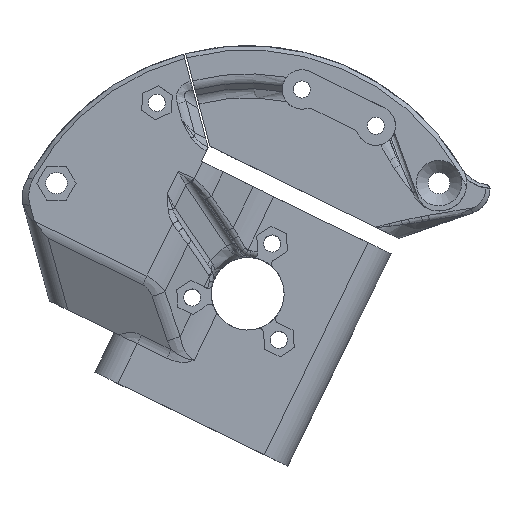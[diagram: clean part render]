
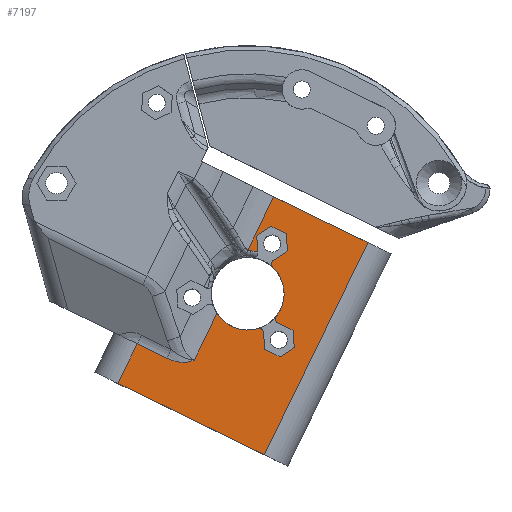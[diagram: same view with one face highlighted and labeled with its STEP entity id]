
A CAD part, top view. The second image highlights one B-rep face of the part: STEP entity #7197.
In plain terms, the highlighted planar face has unit normal (0, 0, 1).
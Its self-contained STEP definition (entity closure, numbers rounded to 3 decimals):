
#98=B_SPLINE_CURVE_WITH_KNOTS('',3,(#10749,#10750,#10751,#10752,#10753),
 .UNSPECIFIED.,.F.,.F.,(4,1,4),(0.,0.003,
0.006),.UNSPECIFIED.);
#682=CIRCLE('',#7674,10.);
#684=CIRCLE('',#7678,1.);
#687=CIRCLE('',#7682,1.);
#688=CIRCLE('',#7684,1.);
#708=CIRCLE('',#7744,1.5);
#709=CIRCLE('',#7745,8.5);
#710=CIRCLE('',#7746,8.5);
#1792=ORIENTED_EDGE('',*,*,#3602,.T.);
#1793=ORIENTED_EDGE('',*,*,#3506,.T.);
#1794=ORIENTED_EDGE('',*,*,#3343,.T.);
#1795=ORIENTED_EDGE('',*,*,#3333,.T.);
#1796=ORIENTED_EDGE('',*,*,#3336,.T.);
#1797=ORIENTED_EDGE('',*,*,#3339,.T.);
#1798=ORIENTED_EDGE('',*,*,#3342,.T.);
#1799=ORIENTED_EDGE('',*,*,#3509,.T.);
#1800=ORIENTED_EDGE('',*,*,#3603,.T.);
#1801=ORIENTED_EDGE('',*,*,#3513,.T.);
#1802=ORIENTED_EDGE('',*,*,#3314,.T.);
#1803=ORIENTED_EDGE('',*,*,#3320,.T.);
#1804=ORIENTED_EDGE('',*,*,#3323,.T.);
#1805=ORIENTED_EDGE('',*,*,#3326,.T.);
#1806=ORIENTED_EDGE('',*,*,#3329,.T.);
#1807=ORIENTED_EDGE('',*,*,#3515,.T.);
#1808=ORIENTED_EDGE('',*,*,#3604,.T.);
#1809=ORIENTED_EDGE('',*,*,#3605,.T.);
#1810=ORIENTED_EDGE('',*,*,#3295,.T.);
#1811=ORIENTED_EDGE('',*,*,#3294,.T.);
#1812=ORIENTED_EDGE('',*,*,#3495,.T.);
#1813=ORIENTED_EDGE('',*,*,#3577,.T.);
#1814=ORIENTED_EDGE('',*,*,#3581,.T.);
#1815=ORIENTED_EDGE('',*,*,#3518,.T.);
#1816=ORIENTED_EDGE('',*,*,#3374,.T.);
#3294=EDGE_CURVE('',#4352,#4355,#5024,.F.);
#3295=EDGE_CURVE('',#4356,#4352,#98,.F.);
#3314=EDGE_CURVE('',#4368,#4369,#5031,.T.);
#3320=EDGE_CURVE('',#4369,#4373,#5037,.T.);
#3323=EDGE_CURVE('',#4373,#4375,#5040,.T.);
#3326=EDGE_CURVE('',#4375,#4377,#5043,.T.);
#3329=EDGE_CURVE('',#4377,#4379,#5046,.T.);
#3333=EDGE_CURVE('',#4380,#4383,#5050,.T.);
#3336=EDGE_CURVE('',#4383,#4385,#5053,.T.);
#3339=EDGE_CURVE('',#4385,#4387,#5056,.T.);
#3342=EDGE_CURVE('',#4387,#4389,#5059,.T.);
#3343=EDGE_CURVE('',#4390,#4380,#5060,.T.);
#3374=EDGE_CURVE('',#4409,#4408,#5081,.F.);
#3495=EDGE_CURVE('',#4355,#4487,#5138,.F.);
#3506=EDGE_CURVE('',#4494,#4390,#682,.T.);
#3509=EDGE_CURVE('',#4389,#4498,#684,.F.);
#3513=EDGE_CURVE('',#4501,#4368,#687,.F.);
#3515=EDGE_CURVE('',#4379,#4502,#688,.F.);
#3518=EDGE_CURVE('',#4504,#4409,#5144,.T.);
#3577=EDGE_CURVE('',#4487,#4535,#5181,.T.);
#3581=EDGE_CURVE('',#4535,#4504,#5184,.T.);
#3602=EDGE_CURVE('',#4408,#4494,#708,.F.);
#3603=EDGE_CURVE('',#4498,#4501,#709,.T.);
#3604=EDGE_CURVE('',#4502,#4553,#710,.T.);
#3605=EDGE_CURVE('',#4553,#4356,#5198,.F.);
#4352=VERTEX_POINT('',#10727);
#4355=VERTEX_POINT('',#10732);
#4356=VERTEX_POINT('',#10754);
#4368=VERTEX_POINT('',#10839);
#4369=VERTEX_POINT('',#10840);
#4373=VERTEX_POINT('',#10850);
#4375=VERTEX_POINT('',#10856);
#4377=VERTEX_POINT('',#10862);
#4379=VERTEX_POINT('',#10868);
#4380=VERTEX_POINT('',#10872);
#4383=VERTEX_POINT('',#10877);
#4385=VERTEX_POINT('',#10883);
#4387=VERTEX_POINT('',#10889);
#4389=VERTEX_POINT('',#10895);
#4390=VERTEX_POINT('',#10899);
#4408=VERTEX_POINT('',#10978);
#4409=VERTEX_POINT('',#10980);
#4487=VERTEX_POINT('',#11739);
#4494=VERTEX_POINT('',#11757);
#4498=VERTEX_POINT('',#11773);
#4501=VERTEX_POINT('',#11781);
#4502=VERTEX_POINT('',#11785);
#4504=VERTEX_POINT('',#11791);
#4535=VERTEX_POINT('',#11933);
#4553=VERTEX_POINT('',#12008);
#5024=LINE('',#10733,#5507);
#5031=LINE('',#10838,#5514);
#5037=LINE('',#10851,#5520);
#5040=LINE('',#10857,#5523);
#5043=LINE('',#10863,#5526);
#5046=LINE('',#10869,#5529);
#5050=LINE('',#10878,#5533);
#5053=LINE('',#10884,#5536);
#5056=LINE('',#10890,#5539);
#5059=LINE('',#10896,#5542);
#5060=LINE('',#10898,#5543);
#5081=LINE('',#10979,#5564);
#5138=LINE('',#11738,#5621);
#5144=LINE('',#11790,#5627);
#5181=LINE('',#11934,#5664);
#5184=LINE('',#11955,#5667);
#5198=LINE('',#12009,#5681);
#5507=VECTOR('',#8372,1000.);
#5514=VECTOR('',#8399,1000.);
#5520=VECTOR('',#8407,1000.);
#5523=VECTOR('',#8412,1000.);
#5526=VECTOR('',#8417,1000.);
#5529=VECTOR('',#8422,1000.);
#5533=VECTOR('',#8428,1000.);
#5536=VECTOR('',#8433,1000.);
#5539=VECTOR('',#8438,1000.);
#5542=VECTOR('',#8443,1000.);
#5543=VECTOR('',#8446,1000.);
#5564=VECTOR('',#8501,1000.);
#5621=VECTOR('',#8680,1000.);
#5627=VECTOR('',#8734,1000.);
#5664=VECTOR('',#8857,1000.);
#5667=VECTOR('',#8862,1000.);
#5681=VECTOR('',#8908,1000.);
#6100=EDGE_LOOP('',(#1792,#1793,#1794,#1795,#1796,#1797,#1798,#1799,#1800,
#1801,#1802,#1803,#1804,#1805,#1806,#1807,#1808,#1809,#1810,#1811,#1812,
#1813,#1814,#1815,#1816));
#6579=FACE_BOUND('',#6100,.T.);
#6949=PLANE('',#7743);
#7197=ADVANCED_FACE('',(#6579),#6949,.F.);
#7674=AXIS2_PLACEMENT_3D('',#11766,#8704,#8705);
#7678=AXIS2_PLACEMENT_3D('',#11772,#8713,#8714);
#7682=AXIS2_PLACEMENT_3D('',#11780,#8722,#8723);
#7684=AXIS2_PLACEMENT_3D('',#11784,#8727,#8728);
#7743=AXIS2_PLACEMENT_3D('',#12004,#8900,#8901);
#7744=AXIS2_PLACEMENT_3D('',#12005,#8902,#8903);
#7745=AXIS2_PLACEMENT_3D('',#12006,#8904,#8905);
#7746=AXIS2_PLACEMENT_3D('',#12007,#8906,#8907);
#8372=DIRECTION('',(0.899,-0.438,0.));
#8399=DIRECTION('',(0.899,-0.438,0.));
#8407=DIRECTION('',(0.07,-0.998,0.));
#8412=DIRECTION('',(-0.829,-0.559,0.));
#8417=DIRECTION('',(-0.899,0.438,0.));
#8422=DIRECTION('',(-0.07,0.998,0.));
#8428=DIRECTION('',(0.829,0.559,0.));
#8433=DIRECTION('',(0.899,-0.438,0.));
#8438=DIRECTION('',(0.07,-0.998,0.));
#8443=DIRECTION('',(-0.829,-0.559,0.));
#8446=DIRECTION('',(-0.07,0.998,0.));
#8501=DIRECTION('',(0.438,0.899,0.));
#8680=DIRECTION('',(0.438,0.899,0.));
#8704=DIRECTION('',(0.,0.,-1.));
#8705=DIRECTION('',(-1.,0.,0.));
#8713=DIRECTION('',(0.,0.,-1.));
#8714=DIRECTION('',(-1.,0.,0.));
#8722=DIRECTION('',(0.,0.,-1.));
#8723=DIRECTION('',(-1.,0.,0.));
#8727=DIRECTION('',(0.,0.,-1.));
#8728=DIRECTION('',(-1.,0.,0.));
#8734=DIRECTION('',(-0.899,0.438,0.));
#8857=DIRECTION('',(0.899,-0.438,0.));
#8862=DIRECTION('',(0.438,0.899,0.));
#8900=DIRECTION('',(0.,0.,-1.));
#8901=DIRECTION('',(-1.,0.,0.));
#8902=DIRECTION('',(0.,0.,-1.));
#8903=DIRECTION('',(-1.,0.,0.));
#8904=DIRECTION('',(0.,0.,-1.));
#8905=DIRECTION('',(-1.,0.,0.));
#8906=DIRECTION('',(0.,0.,-1.));
#8907=DIRECTION('',(-1.,0.,0.));
#8908=DIRECTION('',(0.438,0.899,0.));
#10727=CARTESIAN_POINT('',(-18.837,-15.061,12.702));
#10732=CARTESIAN_POINT('',(-25.732,-11.698,12.702));
#10733=CARTESIAN_POINT('',(-10.887,-18.938,12.702));
#10749=CARTESIAN_POINT('',(-18.837,-15.061,12.702));
#10750=CARTESIAN_POINT('',(-17.85,-15.542,12.702));
#10751=CARTESIAN_POINT('',(-15.774,-16.216,12.702));
#10752=CARTESIAN_POINT('',(-13.491,-15.964,12.702));
#10753=CARTESIAN_POINT('',(-12.502,-15.524,12.702));
#10754=CARTESIAN_POINT('',(-12.502,-15.524,12.702));
#10838=CARTESIAN_POINT('',(-2.671,-2.091,12.702));
#10839=CARTESIAN_POINT('',(7.,-6.808,12.702));
#10840=CARTESIAN_POINT('',(10.572,-8.55,12.702));
#10850=CARTESIAN_POINT('',(10.85,-12.524,12.702));
#10851=CARTESIAN_POINT('',(9.328,9.244,12.702));
#10856=CARTESIAN_POINT('',(7.547,-14.752,12.702));
#10857=CARTESIAN_POINT('',(15.074,-9.675,12.702));
#10862=CARTESIAN_POINT('',(3.967,-13.005,12.702));
#10863=CARTESIAN_POINT('',(-5.695,-8.293,12.702));
#10868=CARTESIAN_POINT('',(3.69,-9.041,12.702));
#10869=CARTESIAN_POINT('',(2.445,8.763,12.702));
#10872=CARTESIAN_POINT('',(2.118,13.431,12.702));
#10877=CARTESIAN_POINT('',(5.421,15.658,12.702));
#10878=CARTESIAN_POINT('',(0.311,12.212,12.702));
#10883=CARTESIAN_POINT('',(9.001,13.912,12.702));
#10884=CARTESIAN_POINT('',(5.878,15.436,12.702));
#10889=CARTESIAN_POINT('',(9.279,9.938,12.702));
#10890=CARTESIAN_POINT('',(9.328,9.244,12.702));
#10895=CARTESIAN_POINT('',(5.985,7.716,12.702));
#10896=CARTESIAN_POINT('',(4.17,6.492,12.702));
#10898=CARTESIAN_POINT('',(2.445,8.763,12.702));
#10899=CARTESIAN_POINT('',(2.378,9.713,12.702));
#10978=CARTESIAN_POINT('',(0.017,10.144,12.702));
#10979=CARTESIAN_POINT('',(-2.047,5.91,12.702));
#10980=CARTESIAN_POINT('',(6.1,22.615,12.702));
#11738=CARTESIAN_POINT('',(-30.25,-20.961,12.702));
#11739=CARTESIAN_POINT('',(-30.25,-20.961,12.702));
#11757=CARTESIAN_POINT('',(0.61,9.981,12.702));
#11766=CARTESIAN_POINT('',(0.,0.,
12.702));
#11772=CARTESIAN_POINT('',(6.544,6.887,12.702));
#11773=CARTESIAN_POINT('',(5.855,6.162,12.702));
#11780=CARTESIAN_POINT('',(7.439,-5.909,12.702));
#11781=CARTESIAN_POINT('',(6.656,-5.287,12.702));
#11784=CARTESIAN_POINT('',(2.692,-9.111,12.702));
#11785=CARTESIAN_POINT('',(2.409,-8.152,12.702));
#11790=CARTESIAN_POINT('',(33.451,9.275,12.702));
#11791=CARTESIAN_POINT('',(28.058,11.905,12.702));
#11933=CARTESIAN_POINT('',(3.904,-37.619,12.702));
#11934=CARTESIAN_POINT('',(-34.981,-18.653,12.702));
#11955=CARTESIAN_POINT('',(28.058,11.905,12.702));
#12004=CARTESIAN_POINT('',(2.629,8.776,12.702));
#12005=CARTESIAN_POINT('',(0.701,11.479,12.702));
#12006=CARTESIAN_POINT('',(0.,0.,
12.702));
#12007=CARTESIAN_POINT('',(0.,0.,
12.702));
#12008=CARTESIAN_POINT('',(-7.162,-4.577,12.702));
#12009=CARTESIAN_POINT('',(-13.541,-17.655,12.702));
